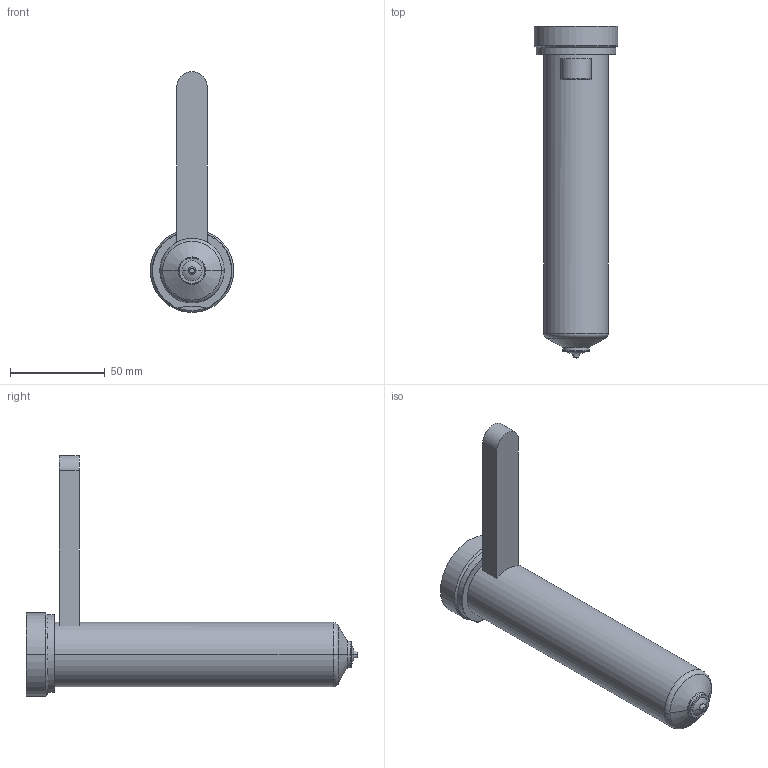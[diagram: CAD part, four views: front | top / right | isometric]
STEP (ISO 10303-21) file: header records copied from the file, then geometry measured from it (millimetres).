
FILE_DESCRIPTION((''),'2;1');
FILE_NAME('EO10_VG-BL_WR_160_COT','2024-02-19T13:12:18',('sundharh'),(''),'CREO PARAMETRIC BY PTC INC, 2023154','CREO PARAMETRIC BY PTC INC, 2023154','');
FILE_SCHEMA(('CONFIG_CONTROL_DESIGN'));
Length unit declared in the file: millimetre
Products named in the file (1): EO10_VG-BL_WR_160_COT
Bounding box: 44 x 175 x 127 mm (x, y, z)
Volume: 174881.8 mm3; surface area: 25657.7 mm2
Topology: 1 solids, 1 shells, 38 faces, 81 edges, 48 vertices
Faces by surface type: cylinder 11, plane 10, torus 9, cone 6, sphere 2
Entity records: 1143 total; most frequent: CARTESIAN_POINT 255, DIRECTION 199, ORIENTED_EDGE 162, AXIS2_PLACEMENT_3D 86, EDGE_CURVE 81, VERTEX_POINT 48, CIRCLE 48, EDGE_LOOP 41
